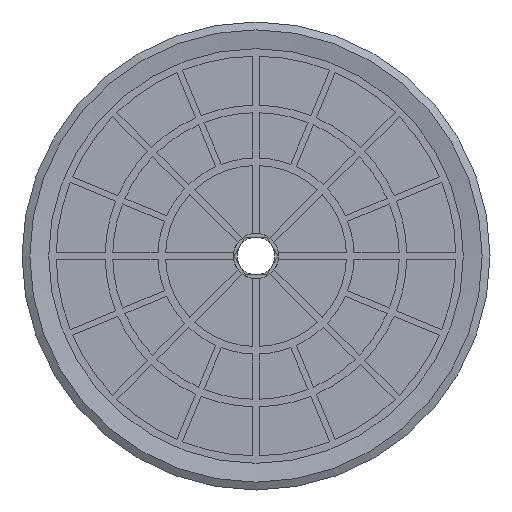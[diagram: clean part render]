
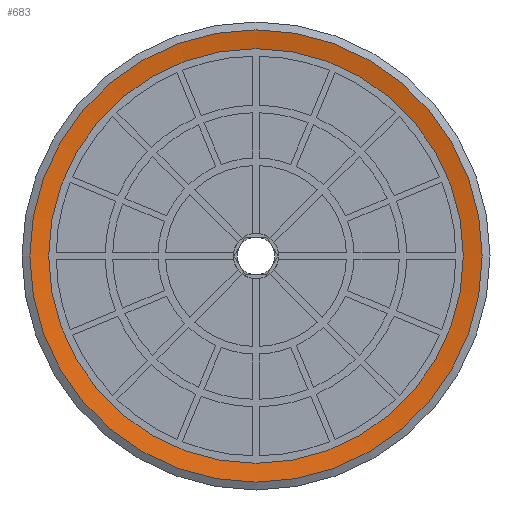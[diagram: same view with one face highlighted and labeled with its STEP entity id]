
A CAD part, front view. The second image highlights one B-rep face of the part: STEP entity #683.
In plain terms, the highlighted conical face has half-angle 80 degrees and reference radius 15 mm.
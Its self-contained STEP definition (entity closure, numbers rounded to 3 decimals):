
#683=ADVANCED_FACE('',(#1283,#1284),#1285,.F.);
#1283=FACE_BOUND('',#2069,.T.);
#1284=FACE_OUTER_BOUND('',#2070,.T.);
#1285=CONICAL_SURFACE('',#2071,15.0,1.396);
#2069=EDGE_LOOP('',(#3746));
#2070=EDGE_LOOP('',(#3747));
#2071=AXIS2_PLACEMENT_3D('',#3748,#3749,#3750);
#3746=ORIENTED_EDGE('',*,*,#5481,.T.);
#3747=ORIENTED_EDGE('',*,*,#5482,.F.);
#3748=CARTESIAN_POINT('',(0.0,0.,0.));
#3749=DIRECTION('',(0.0,0.,-1.0));
#3750=DIRECTION('',(0.0,1.0,0.));
#5481=EDGE_CURVE('',#6639,#6639,#6640,.T.);
#5482=EDGE_CURVE('',#6641,#6641,#6642,.T.);
#6639=VERTEX_POINT('',#8523);
#6640=CIRCLE('',#8524,13.75);
#6641=VERTEX_POINT('',#8525);
#6642=CIRCLE('',#8526,15.0);
#8523=CARTESIAN_POINT('',(0.0,-13.75,0.22));
#8524=AXIS2_PLACEMENT_3D('',#9879,#9880,#9881);
#8525=CARTESIAN_POINT('',(0.0,-15.0,0.));
#8526=AXIS2_PLACEMENT_3D('',#9882,#9883,#9884);
#9879=CARTESIAN_POINT('',(0.0,0.,0.22));
#9880=DIRECTION('',(0.0,0.,1.0));
#9881=DIRECTION('',(0.0,-1.0,0.));
#9882=CARTESIAN_POINT('',(0.0,0.,0.));
#9883=DIRECTION('',(0.0,0.,1.0));
#9884=DIRECTION('',(0.0,-1.0,0.));
